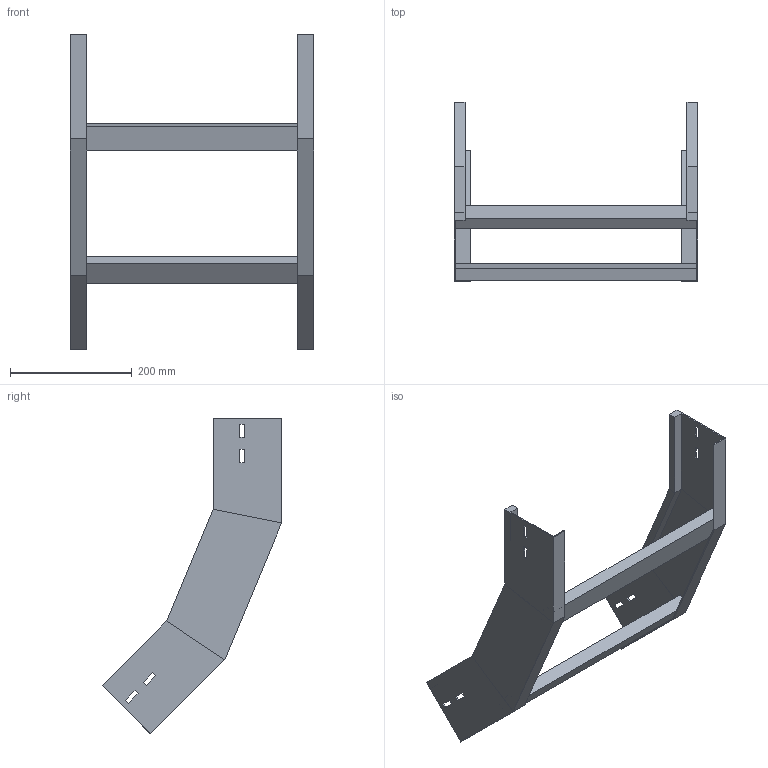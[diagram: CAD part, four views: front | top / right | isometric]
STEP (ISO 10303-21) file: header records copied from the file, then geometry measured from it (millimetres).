
FILE_DESCRIPTION (( 'STEP AP214' ), '1' );
FILE_NAME ('A2X31B5J400XX.step', '2025-03-20T10:07:02', ( '' ), ( '' ), 'SwSTEP 2.0', 'SolidWorks 2023', '' );
FILE_SCHEMA (( 'AUTOMOTIVE_DESIGN' ));
Length unit declared in the file: millimetre
Products named in the file (3): TRAVERSINO_400; A2X31B5J400XX; LONGH.SALITA_45°_H112.5_R500
Assembly tree (4 placements, depth 2):
  A2X31B5J400XX
    LONGH.SALITA_45°_H112.5_R500  x2
    TRAVERSINO_400  x2
Bounding box: 400 x 294.27 x 518.39 mm (x, y, z)
Volume: 1134835.9 mm3; surface area: 438704 mm2
Topology: 4 solids, 4 shells, 96 faces, 232 edges, 144 vertices
Faces by surface type: plane 96
Entity records: 1472 total; most frequent: CARTESIAN_POINT 243, ORIENTED_EDGE 232, DIRECTION 226, LINE 116, EDGE_CURVE 116, VECTOR 116, VERTEX_POINT 72, EDGE_LOOP 56
